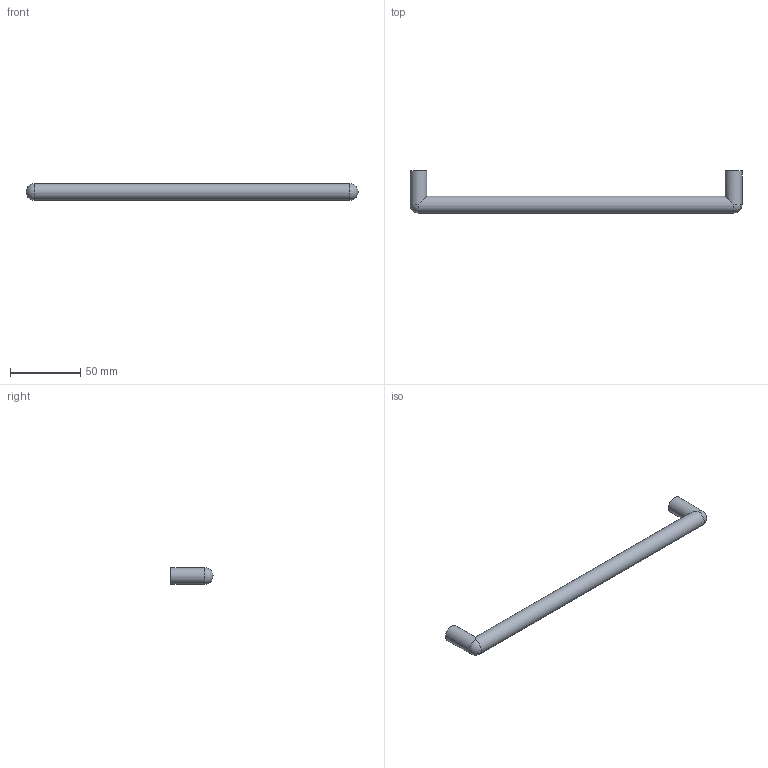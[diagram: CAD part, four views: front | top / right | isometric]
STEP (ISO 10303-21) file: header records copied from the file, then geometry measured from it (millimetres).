
FILE_DESCRIPTION( ( 'STEP AP214' ), '1' );
FILE_NAME( 'C:/Users/kulkarni/Desktop/Apurva/2015/Prodecor_2016/Cadfiles/same as files/Narona/9203963.stp', ' ', ( ' ' ), ( ' ' ), 'PSStep 15.0.47', 'PARTsolutions', ' ' );
FILE_SCHEMA( ( 'AUTOMOTIVE_DESIGN { 1 0 10303 214 1 1 1 1 }' ) );
Length unit declared in the file: millimetre
Products named in the file (1): _9203963
Bounding box: 236 x 30 x 12 mm (x, y, z)
Volume: 30246.2 mm3; surface area: 10732.7 mm2
Topology: 1 solids, 1 shells, 11 faces, 23 edges, 12 vertices
Faces by surface type: cylinder 5, plane 4, sphere 2
Full cylindrical faces by diameter (mm): 5 x2, 12 x3
Entity records: 330 total; most frequent: DIRECTION 48, CARTESIAN_POINT 34, AXIS2_PLACEMENT_3D 24, ORIENTED_EDGE 24, EDGE_LOOP 18, FACE_OUTER_BOUND 16, EDGE_CURVE 12, STYLED_ITEM 11
